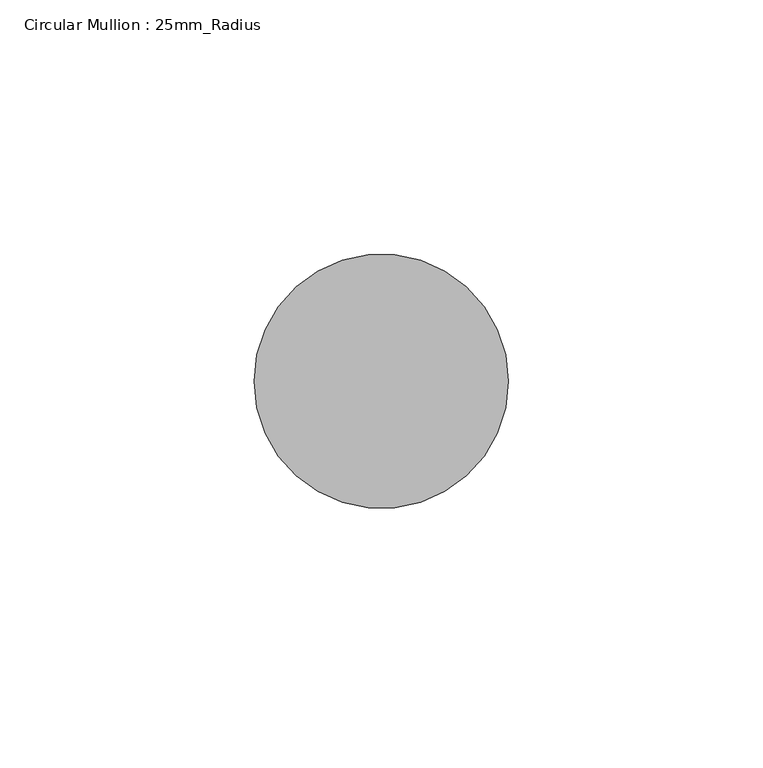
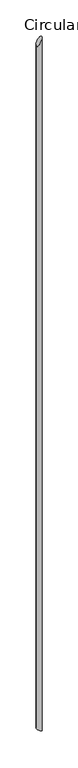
"""IFC4 building model written with IfcOpenShell, lengths in millimetres: member geometry, Circular Mullion : 25mm_Radius."""

from ifc_helpers import new_model, si_unit, frame, origin, place, context, project, spatial, ellipse_curve, source, transform, mapped, element, save
from ifc_brep_helpers import plane_surface, cylinder_surface, advanced_brep


def circular_mullion_25mm_radius_8aad3430(model_context):
    return source(origin(), model_context, "Body", "AdvancedBrep", [
        advanced_brep(
        [(-50.0, 0.0, -83.0534709), (0.0, 0.0, 0.0), (0.0, 0.0, -6846.3993203), (-50.0, 0.0, -6816.1166312)],
        [
            (0, 1, ellipse_curve(frame((-25.0, 0.0, -41.5267355), z_axis=(0.8567278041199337, 0.0, -0.5157688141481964), x_axis=(0.5157688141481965, 0.0, 0.8567278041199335)), 48.4713292, 25.0)),
            (1, 2),
            (2, 3, ellipse_curve(frame((-25.0, 0.0, -6831.2579758), z_axis=(0.5180471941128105, 0.0, 0.8553520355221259), x_axis=(-0.855352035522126, 0.0, 0.5180471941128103)), 29.2277319, 25.0)),
            (3, 0),
            (1, 0, ellipse_curve(frame((-25.0, 0.0, -41.5267355), z_axis=(0.8567278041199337, 0.0, -0.5157688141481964), x_axis=(0.5157688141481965, 0.0, 0.8567278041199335)), 48.4713292, 25.0)),
            (3, 2, ellipse_curve(frame((-25.0, 0.0, -6831.2579758), z_axis=(0.5180471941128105, 0.0, 0.8553520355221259), x_axis=(-0.855352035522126, 0.0, 0.5180471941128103)), 29.2277319, 25.0)),
        ],
        [
            cylinder_surface(frame((-25.0, 0.0, 0.0), z_axis=(0.0, 0.0, 1.0), x_axis=(1.0, 0.0, 0.0)), 25.0),
            plane_surface(frame((0.0, -304.8, 0.0), z_axis=(-0.8567278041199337, 0.0, 0.5157688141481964), x_axis=(-0.5157688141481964, 0.0, -0.8567278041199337))),
            plane_surface(frame((0.0, -304.8, -6846.3993203), z_axis=(-0.5180471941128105, 0.0, -0.8553520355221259), x_axis=(-0.8553520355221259, 0.0, 0.5180471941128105))),
        ],
        [
            (0, [[1, 2, 3, 4]]),
            (0, [[5, -4, 6, -2]]),
            (1, [[-1, -5]]),
            (2, [[-6, -3]]),
        ],
    ),
    ])


if __name__ == "__main__":
    model = new_model("IFC4")
    model_context = context("Model", 3, world=origin())
    ifc_project = project(units=[si_unit("LENGTHUNIT", "METRE", prefix="MILLI")], contexts=[model_context])
    site = spatial("IfcSite", under=ifc_project)
    building = spatial("IfcBuilding", under=site)
    placement = place(None, origin())
    circular_mullion_25mm_radius_shape = circular_mullion_25mm_radius_8aad3430(model_context)
    element("IfcMember", 1, ObjectType="Circular Mullion : 25mm_Radius", at=placement, inside=building, context=model_context, shape_type="MappedRepresentation", body=[
        mapped(circular_mullion_25mm_radius_shape, transform((0.0, 0.0, 0.0), x_axis=(1.0, 0.0, 0.0), y_axis=(0.0, 1.0, 0.0), z_axis=(0.0, 0.0, 1.0))),
    ])
    save(model, "model.ifc")
